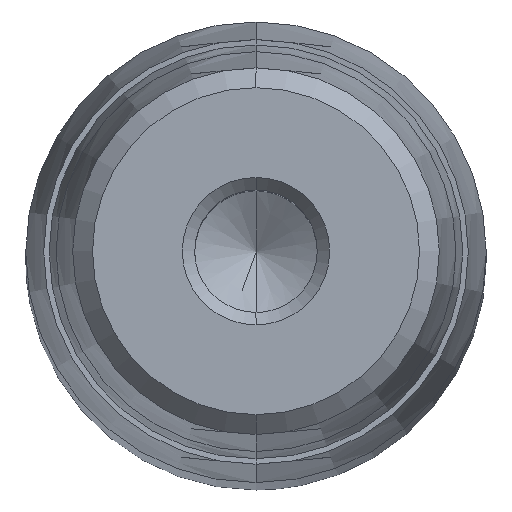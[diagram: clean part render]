
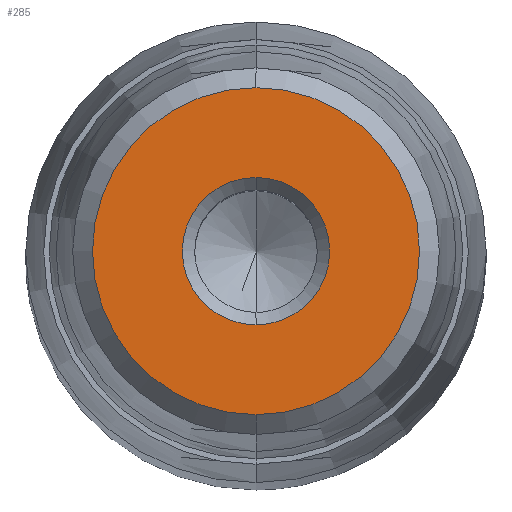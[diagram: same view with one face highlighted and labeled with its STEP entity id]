
A CAD part, top view. The second image highlights one B-rep face of the part: STEP entity #285.
In plain terms, the highlighted planar face has unit normal (0, 0, 1).
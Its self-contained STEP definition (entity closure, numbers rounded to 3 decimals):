
#164=CARTESIAN_POINT('Axis2P3D Location',(0.,0.,35.)) ;
#168=CARTESIAN_POINT('Vertex',(4.,0.,35.)) ;
#170=CARTESIAN_POINT('Vertex',(0.,-4.,35.)) ;
#173=CARTESIAN_POINT('Axis2P3D Location',(0.,0.,35.)) ;
#177=CARTESIAN_POINT('Vertex',(0.,4.,35.)) ;
#228=CARTESIAN_POINT('Axis2P3D Location',(0.,4.,35.)) ;
#233=CARTESIAN_POINT('Axis2P3D Location',(0.,0.,35.)) ;
#237=CARTESIAN_POINT('Vertex',(0.,8.875,35.)) ;
#239=CARTESIAN_POINT('Vertex',(8.875,0.,35.)) ;
#242=CARTESIAN_POINT('Axis2P3D Location',(0.,0.,35.)) ;
#246=CARTESIAN_POINT('Vertex',(-8.875,0.,35.)) ;
#249=CARTESIAN_POINT('Axis2P3D Location',(0.,0.,35.)) ;
#253=CARTESIAN_POINT('Vertex',(0.,-8.875,35.)) ;
#256=CARTESIAN_POINT('Axis2P3D Location',(0.,0.,35.)) ;
#267=CARTESIAN_POINT('Axis2P3D Location',(0.,0.,35.)) ;
#271=CARTESIAN_POINT('Vertex',(-4.,0.,35.)) ;
#274=CARTESIAN_POINT('Axis2P3D Location',(0.,0.,35.)) ;
#165=DIRECTION('Axis2P3D Direction',(-0.,0.,1.)) ;
#174=DIRECTION('Axis2P3D Direction',(-0.,0.,1.)) ;
#229=DIRECTION('Axis2P3D Direction',(0.,0.,-1.)) ;
#230=DIRECTION('Axis2P3D XDirection',(0.,1.,0.)) ;
#234=DIRECTION('Axis2P3D Direction',(0.,0.,-1.)) ;
#243=DIRECTION('Axis2P3D Direction',(0.,0.,-1.)) ;
#250=DIRECTION('Axis2P3D Direction',(0.,0.,-1.)) ;
#257=DIRECTION('Axis2P3D Direction',(0.,0.,-1.)) ;
#268=DIRECTION('Axis2P3D Direction',(0.,0.,-1.)) ;
#275=DIRECTION('Axis2P3D Direction',(0.,0.,-1.)) ;
#166=AXIS2_PLACEMENT_3D('Circle Axis2P3D',#164,#165,$) ;
#175=AXIS2_PLACEMENT_3D('Circle Axis2P3D',#173,#174,$) ;
#231=AXIS2_PLACEMENT_3D('Plane Axis2P3D',#228,#229,#230) ;
#235=AXIS2_PLACEMENT_3D('Circle Axis2P3D',#233,#234,$) ;
#244=AXIS2_PLACEMENT_3D('Circle Axis2P3D',#242,#243,$) ;
#251=AXIS2_PLACEMENT_3D('Circle Axis2P3D',#249,#250,$) ;
#258=AXIS2_PLACEMENT_3D('Circle Axis2P3D',#256,#257,$) ;
#269=AXIS2_PLACEMENT_3D('Circle Axis2P3D',#267,#268,$) ;
#276=AXIS2_PLACEMENT_3D('Circle Axis2P3D',#274,#275,$) ;
#262=ORIENTED_EDGE('',*,*,#241,.F.) ;
#263=ORIENTED_EDGE('',*,*,#248,.F.) ;
#264=ORIENTED_EDGE('',*,*,#255,.F.) ;
#265=ORIENTED_EDGE('',*,*,#260,.F.) ;
#280=ORIENTED_EDGE('',*,*,#172,.T.) ;
#281=ORIENTED_EDGE('',*,*,#273,.T.) ;
#282=ORIENTED_EDGE('',*,*,#278,.T.) ;
#283=ORIENTED_EDGE('',*,*,#179,.T.) ;
#284=FACE_BOUND('',#279,.T.) ;
#285=ADVANCED_FACE('722-25x250x273',(#266,#284),#232,.F.) ;
#167=CIRCLE('generated circle',#166,4.) ;
#176=CIRCLE('generated circle',#175,4.) ;
#236=CIRCLE('generated circle',#235,8.875) ;
#245=CIRCLE('generated circle',#244,8.875) ;
#252=CIRCLE('generated circle',#251,8.875) ;
#259=CIRCLE('generated circle',#258,8.875) ;
#270=CIRCLE('generated circle',#269,4.) ;
#277=CIRCLE('generated circle',#276,4.) ;
#172=EDGE_CURVE('',#169,#171,#167,.F.) ;
#179=EDGE_CURVE('',#178,#169,#176,.F.) ;
#241=EDGE_CURVE('',#238,#240,#236,.T.) ;
#248=EDGE_CURVE('',#247,#238,#245,.T.) ;
#255=EDGE_CURVE('',#254,#247,#252,.T.) ;
#260=EDGE_CURVE('',#240,#254,#259,.T.) ;
#273=EDGE_CURVE('',#171,#272,#270,.T.) ;
#278=EDGE_CURVE('',#272,#178,#277,.T.) ;
#261=EDGE_LOOP('',(#262,#263,#264,#265)) ;
#279=EDGE_LOOP('',(#280,#281,#282,#283)) ;
#266=FACE_OUTER_BOUND('',#261,.T.) ;
#232=PLANE('Plane',#231) ;
#169=VERTEX_POINT('',#168) ;
#171=VERTEX_POINT('',#170) ;
#178=VERTEX_POINT('',#177) ;
#238=VERTEX_POINT('',#237) ;
#240=VERTEX_POINT('',#239) ;
#247=VERTEX_POINT('',#246) ;
#254=VERTEX_POINT('',#253) ;
#272=VERTEX_POINT('',#271) ;
